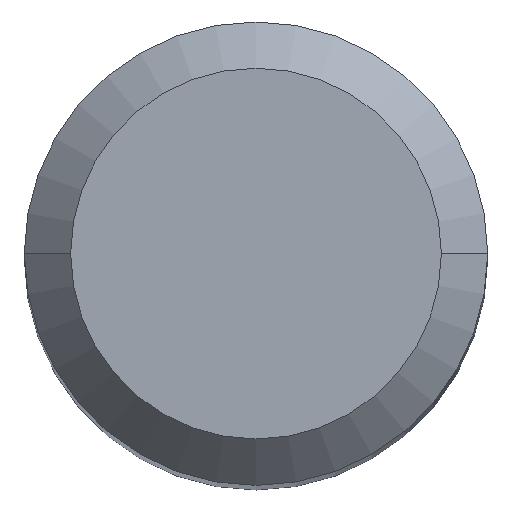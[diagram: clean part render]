
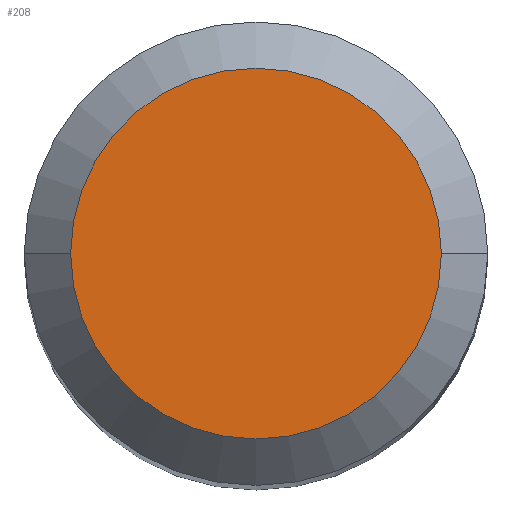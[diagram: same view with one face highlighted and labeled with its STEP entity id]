
A CAD part, top view. The second image highlights one B-rep face of the part: STEP entity #208.
In plain terms, the highlighted planar face has unit normal (0, 0, 1).
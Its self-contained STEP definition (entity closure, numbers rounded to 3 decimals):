
#68 = DIRECTION ( 'NONE',  ( 0., 0., 1. ) ) ;
#76 = DIRECTION ( 'NONE',  ( 0., 0., -1. ) ) ;
#91 = ORIENTED_EDGE ( 'NONE', *, *, #437, .F. ) ;
#116 = DIRECTION ( 'NONE',  ( 0., 0., -1. ) ) ;
#120 = EDGE_CURVE ( 'NONE', #517, #172, #621, .T. ) ;
#126 = CARTESIAN_POINT ( 'NONE',  ( -2.4, 0., 0. ) ) ;
#172 = VERTEX_POINT ( 'NONE', #126 ) ;
#176 = EDGE_LOOP ( 'NONE', ( #91, #467 ) ) ;
#197 = CARTESIAN_POINT ( 'NONE',  ( 0., 0., 0. ) ) ;
#208 = ADVANCED_FACE ( 'NONE', ( #369 ), #316, .T. ) ;
#254 = AXIS2_PLACEMENT_3D ( 'NONE', #197, #116, #319 ) ;
#261 = DIRECTION ( 'NONE',  ( 1., 0., 0. ) ) ;
#281 = AXIS2_PLACEMENT_3D ( 'NONE', #512, #76, #594 ) ;
#316 = PLANE ( 'NONE',  #524 ) ;
#319 = DIRECTION ( 'NONE',  ( -1., 0., 0. ) ) ;
#369 = FACE_OUTER_BOUND ( 'NONE', #176, .T. ) ;
#437 = EDGE_CURVE ( 'NONE', #172, #517, #536, .T. ) ;
#467 = ORIENTED_EDGE ( 'NONE', *, *, #120, .F. ) ;
#504 = CARTESIAN_POINT ( 'NONE',  ( 0., 2.4, 0. ) ) ;
#512 = CARTESIAN_POINT ( 'NONE',  ( 0., 0., 0. ) ) ;
#517 = VERTEX_POINT ( 'NONE', #616 ) ;
#524 = AXIS2_PLACEMENT_3D ( 'NONE', #504, #68, #261 ) ;
#536 = CIRCLE ( 'NONE', #281, 2.4 ) ;
#594 = DIRECTION ( 'NONE',  ( -1., 0., 0. ) ) ;
#616 = CARTESIAN_POINT ( 'NONE',  ( 2.4, 0., 0. ) ) ;
#621 = CIRCLE ( 'NONE', #254, 2.4 ) ;
